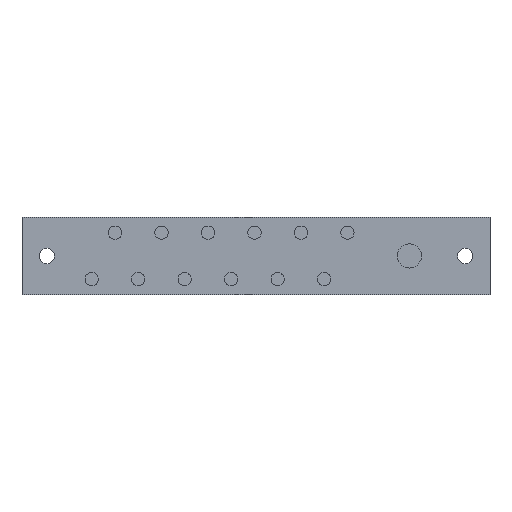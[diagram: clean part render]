
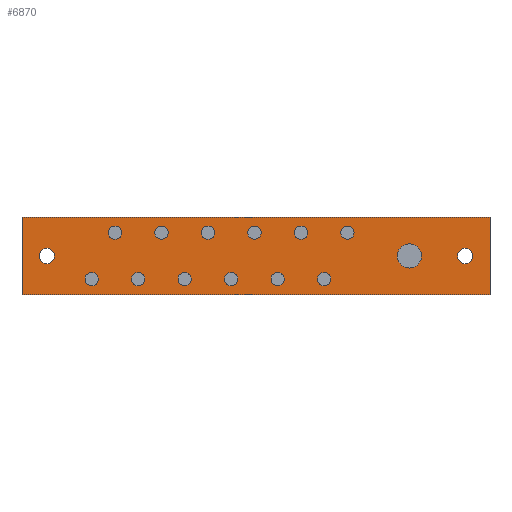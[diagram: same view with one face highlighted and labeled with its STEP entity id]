
A CAD part, top view. The second image highlights one B-rep face of the part: STEP entity #6870.
In plain terms, the highlighted planar face has unit normal (0, 0, 1).
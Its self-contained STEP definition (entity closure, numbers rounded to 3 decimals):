
#3640=CARTESIAN_POINT('',(249.512,66.46,3.));
#3650=VERTEX_POINT('',#3640);
#3680=CARTESIAN_POINT('',(98.512,66.46,3.));
#3690=DIRECTION('',(1.,0.,0.));
#3700=VECTOR('',#3690,1.);
#3710=LINE('',#3680,#3700);
#3720=CARTESIAN_POINT('',(98.512,66.46,3.));
#3730=VERTEX_POINT('',#3720);
#3740=EDGE_CURVE('',#3730,#3650,#3710,.T.);
#3950=CARTESIAN_POINT('',(249.512,41.46,3.));
#3960=VERTEX_POINT('',#3950);
#3990=CARTESIAN_POINT('',(249.512,66.46,3.));
#4000=DIRECTION('',(0.,-1.,0.));
#4010=VECTOR('',#4000,1.);
#4020=LINE('',#3990,#4010);
#4030=EDGE_CURVE('',#3650,#3960,#4020,.T.);
#4190=CARTESIAN_POINT('',(98.512,41.46,3.));
#4200=VERTEX_POINT('',#4190);
#4230=CARTESIAN_POINT('',(249.512,41.46,3.));
#4240=DIRECTION('',(-1.,0.,0.));
#4250=VECTOR('',#4240,1.);
#4260=LINE('',#4230,#4250);
#4270=EDGE_CURVE('',#3960,#4200,#4260,.T.);
#4400=CARTESIAN_POINT('',(98.512,41.46,3.));
#4410=DIRECTION('',(0.,1.,0.));
#4420=VECTOR('',#4410,1.);
#4430=LINE('',#4400,#4420);
#4440=EDGE_CURVE('',#4200,#3730,#4430,.T.);
#4510=CARTESIAN_POINT('',(0.,0.,3.));
#4520=DIRECTION('',(0.,0.,1.));
#4530=DIRECTION('',(1.,0.,0.));
#4540=AXIS2_PLACEMENT_3D('',#4510,#4520,#4530);
#4550=PLANE('',#4540);
#4560=ORIENTED_EDGE('',*,*,#3740,.F.);
#4570=ORIENTED_EDGE('',*,*,#4030,.F.);
#4580=ORIENTED_EDGE('',*,*,#4270,.F.);
#4590=ORIENTED_EDGE('',*,*,#4440,.F.);
#4600=EDGE_LOOP('',(#4590,#4580,#4570,#4560));
#4610=FACE_OUTER_BOUND('',#4600,.T.);
#4620=CARTESIAN_POINT('',(151.012,46.46,3.));
#4630=DIRECTION('',(0.,0.,-1.));
#4640=DIRECTION('',(1.,0.,0.));
#4650=AXIS2_PLACEMENT_3D('',#4620,#4630,#4640);
#4660=CIRCLE('',#4650,2.);
#4670=CARTESIAN_POINT('',(153.012,46.46,3.));
#4680=VERTEX_POINT('',#4670);
#4690=CARTESIAN_POINT('',(149.012,46.46,3.));
#4700=VERTEX_POINT('',#4690);
#4710=EDGE_CURVE('',#4680,#4700,#4660,.T.);
#4720=ORIENTED_EDGE('',*,*,#4710,.T.);
#4730=EDGE_CURVE('',#4700,#4680,#4660,.T.);
#4740=ORIENTED_EDGE('',*,*,#4730,.T.);
#4750=EDGE_LOOP('',(#4740,#4720));
#4760=FACE_BOUND('',#4750,.T.);
#4770=CARTESIAN_POINT('',(196.012,46.46,3.));
#4780=DIRECTION('',(0.,0.,-1.));
#4790=DIRECTION('',(1.,0.,0.));
#4800=AXIS2_PLACEMENT_3D('',#4770,#4780,#4790);
#4810=CIRCLE('',#4800,2.);
#4820=CARTESIAN_POINT('',(198.012,46.46,3.));
#4830=VERTEX_POINT('',#4820);
#4840=CARTESIAN_POINT('',(194.012,46.46,3.));
#4850=VERTEX_POINT('',#4840);
#4860=EDGE_CURVE('',#4830,#4850,#4810,.T.);
#4870=ORIENTED_EDGE('',*,*,#4860,.T.);
#4880=EDGE_CURVE('',#4850,#4830,#4810,.T.);
#4890=ORIENTED_EDGE('',*,*,#4880,.T.);
#4900=EDGE_LOOP('',(#4890,#4870));
#4910=FACE_BOUND('',#4900,.T.);
#4920=CARTESIAN_POINT('',(166.012,46.46,3.));
#4930=DIRECTION('',(0.,0.,-1.));
#4940=DIRECTION('',(-1.,0.,0.));
#4950=AXIS2_PLACEMENT_3D('',#4920,#4930,#4940);
#4960=CIRCLE('',#4950,2.);
#4970=CARTESIAN_POINT('',(168.012,46.46,3.));
#4980=VERTEX_POINT('',#4970);
#4990=CARTESIAN_POINT('',(164.012,46.46,3.));
#5000=VERTEX_POINT('',#4990);
#5010=EDGE_CURVE('',#4980,#5000,#4960,.T.);
#5020=ORIENTED_EDGE('',*,*,#5010,.T.);
#5030=EDGE_CURVE('',#5000,#4980,#4960,.T.);
#5040=ORIENTED_EDGE('',*,*,#5030,.T.);
#5050=EDGE_LOOP('',(#5040,#5020));
#5060=FACE_BOUND('',#5050,.T.);
#5070=CARTESIAN_POINT('',(173.512,61.46,3.));
#5080=DIRECTION('',(0.,0.,-1.));
#5090=DIRECTION('',(-1.,0.,0.));
#5100=AXIS2_PLACEMENT_3D('',#5070,#5080,#5090);
#5110=CIRCLE('',#5100,2.);
#5120=CARTESIAN_POINT('',(175.512,61.46,3.));
#5130=VERTEX_POINT('',#5120);
#5140=CARTESIAN_POINT('',(171.512,61.46,3.));
#5150=VERTEX_POINT('',#5140);
#5160=EDGE_CURVE('',#5130,#5150,#5110,.T.);
#5170=ORIENTED_EDGE('',*,*,#5160,.T.);
#5180=EDGE_CURVE('',#5150,#5130,#5110,.T.);
#5190=ORIENTED_EDGE('',*,*,#5180,.T.);
#5200=EDGE_LOOP('',(#5190,#5170));
#5210=FACE_BOUND('',#5200,.T.);
#5220=CARTESIAN_POINT('',(158.512,61.46,3.));
#5230=DIRECTION('',(0.,0.,-1.));
#5240=DIRECTION('',(1.,0.,0.));
#5250=AXIS2_PLACEMENT_3D('',#5220,#5230,#5240);
#5260=CIRCLE('',#5250,2.);
#5270=CARTESIAN_POINT('',(160.512,61.46,3.));
#5280=VERTEX_POINT('',#5270);
#5290=CARTESIAN_POINT('',(156.512,61.46,3.));
#5300=VERTEX_POINT('',#5290);
#5310=EDGE_CURVE('',#5280,#5300,#5260,.T.);
#5320=ORIENTED_EDGE('',*,*,#5310,.T.);
#5330=EDGE_CURVE('',#5300,#5280,#5260,.T.);
#5340=ORIENTED_EDGE('',*,*,#5330,.T.);
#5350=EDGE_LOOP('',(#5340,#5320));
#5360=FACE_BOUND('',#5350,.T.);
#5370=CARTESIAN_POINT('',(181.012,46.46,3.));
#5380=DIRECTION('',(0.,0.,-1.));
#5390=DIRECTION('',(-1.,0.,0.));
#5400=AXIS2_PLACEMENT_3D('',#5370,#5380,#5390);
#5410=CIRCLE('',#5400,2.);
#5420=CARTESIAN_POINT('',(179.012,46.46,3.));
#5430=VERTEX_POINT('',#5420);
#5440=CARTESIAN_POINT('',(183.012,46.46,3.));
#5450=VERTEX_POINT('',#5440);
#5460=EDGE_CURVE('',#5430,#5450,#5410,.T.);
#5470=ORIENTED_EDGE('',*,*,#5460,.T.);
#5480=EDGE_CURVE('',#5450,#5430,#5410,.T.);
#5490=ORIENTED_EDGE('',*,*,#5480,.T.);
#5500=EDGE_LOOP('',(#5490,#5470));
#5510=FACE_BOUND('',#5500,.T.);
#5520=CARTESIAN_POINT('',(241.512,53.96,3.));
#5530=DIRECTION('',(0.,0.,-1.));
#5540=DIRECTION('',(-1.,0.,0.));
#5550=AXIS2_PLACEMENT_3D('',#5520,#5530,#5540);
#5560=CIRCLE('',#5550,2.5);
#5570=CARTESIAN_POINT('',(244.012,53.96,3.));
#5580=VERTEX_POINT('',#5570);
#5590=CARTESIAN_POINT('',(239.012,53.96,3.));
#5600=VERTEX_POINT('',#5590);
#5610=EDGE_CURVE('',#5580,#5600,#5560,.T.);
#5620=ORIENTED_EDGE('',*,*,#5610,.T.);
#5630=EDGE_CURVE('',#5600,#5580,#5560,.T.);
#5640=ORIENTED_EDGE('',*,*,#5630,.T.);
#5650=EDGE_LOOP('',(#5640,#5620));
#5660=FACE_BOUND('',#5650,.T.);
#5670=CARTESIAN_POINT('',(136.012,46.46,3.));
#5680=DIRECTION('',(0.,0.,-1.));
#5690=DIRECTION('',(-1.,0.,0.));
#5700=AXIS2_PLACEMENT_3D('',#5670,#5680,#5690);
#5710=CIRCLE('',#5700,2.);
#5720=CARTESIAN_POINT('',(138.012,46.46,3.));
#5730=VERTEX_POINT('',#5720);
#5740=CARTESIAN_POINT('',(134.012,46.46,3.));
#5750=VERTEX_POINT('',#5740);
#5760=EDGE_CURVE('',#5730,#5750,#5710,.T.);
#5770=ORIENTED_EDGE('',*,*,#5760,.T.);
#5780=EDGE_CURVE('',#5750,#5730,#5710,.T.);
#5790=ORIENTED_EDGE('',*,*,#5780,.T.);
#5800=EDGE_LOOP('',(#5790,#5770));
#5810=FACE_BOUND('',#5800,.T.);
#5820=CARTESIAN_POINT('',(106.512,53.96,3.));
#5830=DIRECTION('',(0.,0.,-1.));
#5840=DIRECTION('',(1.,0.,0.));
#5850=AXIS2_PLACEMENT_3D('',#5820,#5830,#5840);
#5860=CIRCLE('',#5850,2.5);
#5870=CARTESIAN_POINT('',(109.012,53.96,3.));
#5880=VERTEX_POINT('',#5870);
#5890=CARTESIAN_POINT('',(104.012,53.96,3.));
#5900=VERTEX_POINT('',#5890);
#5910=EDGE_CURVE('',#5880,#5900,#5860,.T.);
#5920=ORIENTED_EDGE('',*,*,#5910,.T.);
#5930=EDGE_CURVE('',#5900,#5880,#5860,.T.);
#5940=ORIENTED_EDGE('',*,*,#5930,.T.);
#5950=EDGE_LOOP('',(#5940,#5920));
#5960=FACE_BOUND('',#5950,.T.);
#5970=CARTESIAN_POINT('',(223.512,53.96,3.));
#5980=DIRECTION('',(0.,0.,-1.));
#5990=DIRECTION('',(-1.,0.,0.));
#6000=AXIS2_PLACEMENT_3D('',#5970,#5980,#5990);
#6010=CIRCLE('',#6000,3.5);
#6020=CARTESIAN_POINT('',(227.012,53.96,3.));
#6030=VERTEX_POINT('',#6020);
#6040=CARTESIAN_POINT('',(220.012,53.96,3.));
#6050=VERTEX_POINT('',#6040);
#6060=EDGE_CURVE('',#6030,#6050,#6010,.T.);
#6070=ORIENTED_EDGE('',*,*,#6060,.T.);
#6080=EDGE_CURVE('',#6050,#6030,#6010,.T.);
#6090=ORIENTED_EDGE('',*,*,#6080,.T.);
#6100=EDGE_LOOP('',(#6090,#6070));
#6110=FACE_BOUND('',#6100,.T.);
#6120=CARTESIAN_POINT('',(128.512,61.46,3.));
#6130=DIRECTION('',(0.,0.,-1.));
#6140=DIRECTION('',(-1.,0.,0.));
#6150=AXIS2_PLACEMENT_3D('',#6120,#6130,#6140);
#6160=CIRCLE('',#6150,2.);
#6170=CARTESIAN_POINT('',(130.512,61.46,3.));
#6180=VERTEX_POINT('',#6170);
#6190=CARTESIAN_POINT('',(126.512,61.46,3.));
#6200=VERTEX_POINT('',#6190);
#6210=EDGE_CURVE('',#6180,#6200,#6160,.T.);
#6220=ORIENTED_EDGE('',*,*,#6210,.T.);
#6230=EDGE_CURVE('',#6200,#6180,#6160,.T.);
#6240=ORIENTED_EDGE('',*,*,#6230,.T.);
#6250=EDGE_LOOP('',(#6240,#6220));
#6260=FACE_BOUND('',#6250,.T.);
#6270=CARTESIAN_POINT('',(143.512,61.46,3.));
#6280=DIRECTION('',(0.,0.,-1.));
#6290=DIRECTION('',(1.,0.,0.));
#6300=AXIS2_PLACEMENT_3D('',#6270,#6280,#6290);
#6310=CIRCLE('',#6300,2.);
#6320=CARTESIAN_POINT('',(145.512,61.46,3.));
#6330=VERTEX_POINT('',#6320);
#6340=CARTESIAN_POINT('',(141.512,61.46,3.));
#6350=VERTEX_POINT('',#6340);
#6360=EDGE_CURVE('',#6330,#6350,#6310,.T.);
#6370=ORIENTED_EDGE('',*,*,#6360,.T.);
#6380=EDGE_CURVE('',#6350,#6330,#6310,.T.);
#6390=ORIENTED_EDGE('',*,*,#6380,.T.);
#6400=EDGE_LOOP('',(#6390,#6370));
#6410=FACE_BOUND('',#6400,.T.);
#6420=CARTESIAN_POINT('',(188.512,61.46,3.));
#6430=DIRECTION('',(0.,0.,-1.));
#6440=DIRECTION('',(-1.,0.,0.));
#6450=AXIS2_PLACEMENT_3D('',#6420,#6430,#6440);
#6460=CIRCLE('',#6450,2.);
#6470=CARTESIAN_POINT('',(190.512,61.46,3.));
#6480=VERTEX_POINT('',#6470);
#6490=CARTESIAN_POINT('',(186.512,61.46,3.));
#6500=VERTEX_POINT('',#6490);
#6510=EDGE_CURVE('',#6480,#6500,#6460,.T.);
#6520=ORIENTED_EDGE('',*,*,#6510,.T.);
#6530=EDGE_CURVE('',#6500,#6480,#6460,.T.);
#6540=ORIENTED_EDGE('',*,*,#6530,.T.);
#6550=EDGE_LOOP('',(#6540,#6520));
#6560=FACE_BOUND('',#6550,.T.);
#6570=CARTESIAN_POINT('',(203.512,61.46,3.));
#6580=DIRECTION('',(0.,0.,-1.));
#6590=DIRECTION('',(-1.,0.,0.));
#6600=AXIS2_PLACEMENT_3D('',#6570,#6580,#6590);
#6610=CIRCLE('',#6600,2.);
#6620=CARTESIAN_POINT('',(205.512,61.46,3.));
#6630=VERTEX_POINT('',#6620);
#6640=CARTESIAN_POINT('',(201.512,61.46,3.));
#6650=VERTEX_POINT('',#6640);
#6660=EDGE_CURVE('',#6630,#6650,#6610,.T.);
#6670=ORIENTED_EDGE('',*,*,#6660,.T.);
#6680=EDGE_CURVE('',#6650,#6630,#6610,.T.);
#6690=ORIENTED_EDGE('',*,*,#6680,.T.);
#6700=EDGE_LOOP('',(#6690,#6670));
#6710=FACE_BOUND('',#6700,.T.);
#6720=CARTESIAN_POINT('',(121.012,46.46,3.));
#6730=DIRECTION('',(0.,0.,-1.));
#6740=DIRECTION('',(-1.,0.,0.));
#6750=AXIS2_PLACEMENT_3D('',#6720,#6730,#6740);
#6760=CIRCLE('',#6750,2.);
#6770=CARTESIAN_POINT('',(119.012,46.46,3.));
#6780=VERTEX_POINT('',#6770);
#6790=CARTESIAN_POINT('',(123.012,46.46,3.));
#6800=VERTEX_POINT('',#6790);
#6810=EDGE_CURVE('',#6780,#6800,#6760,.T.);
#6820=ORIENTED_EDGE('',*,*,#6810,.T.);
#6830=EDGE_CURVE('',#6800,#6780,#6760,.T.);
#6840=ORIENTED_EDGE('',*,*,#6830,.T.);
#6850=EDGE_LOOP('',(#6840,#6820));
#6860=FACE_BOUND('',#6850,.T.);
#6870=ADVANCED_FACE('',(#4610,#4760,#4910,#5060,#5210,#5360,#5510,#5660,
#5810,#5960,#6110,#6260,#6410,#6560,#6710,#6860),#4550,.T.);
